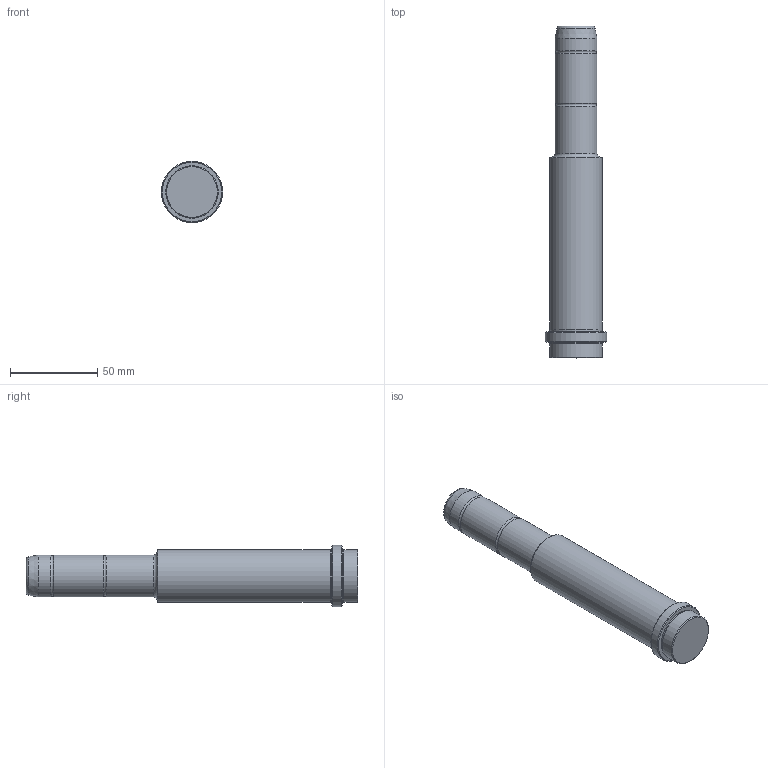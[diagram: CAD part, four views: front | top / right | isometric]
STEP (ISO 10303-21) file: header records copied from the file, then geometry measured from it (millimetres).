
FILE_DESCRIPTION( ( 'STEP AP203' ), '1' );
FILE_NAME( 'D:/Cuma/24 03 2009/D03/D03_24X106X75.step', '2002-12-31T23:21:34', ( ' ' ), ( ' ' ), 'XStep 1.0', ' ', ' ' );
FILE_SCHEMA( ( 'CONFIG_CONTROL_DESIGN' ) );
Length unit declared in the file: metre
Products named in the file (1): 1
Bounding box: 35 x 190 x 35 mm (x, y, z)
Volume: 116276.7 mm3; surface area: 18317.1 mm2
Topology: 1 solids, 1 shells, 24 faces, 42 edges, 25 vertices
Faces by surface type: cylinder 8, plane 7, cone 5, torus 4
Full cylindrical faces by diameter (mm): 24 x3, 29.5 x2, 30 x2, 35 x1
Entity records: 519 total; most frequent: DIRECTION 96, CARTESIAN_POINT 71, AXIS2_PLACEMENT_3D 48, EDGE_LOOP 46, ORIENTED_EDGE 46, FACE_OUTER_BOUND 36, ADVANCED_FACE 24, EDGE_CURVE 23
